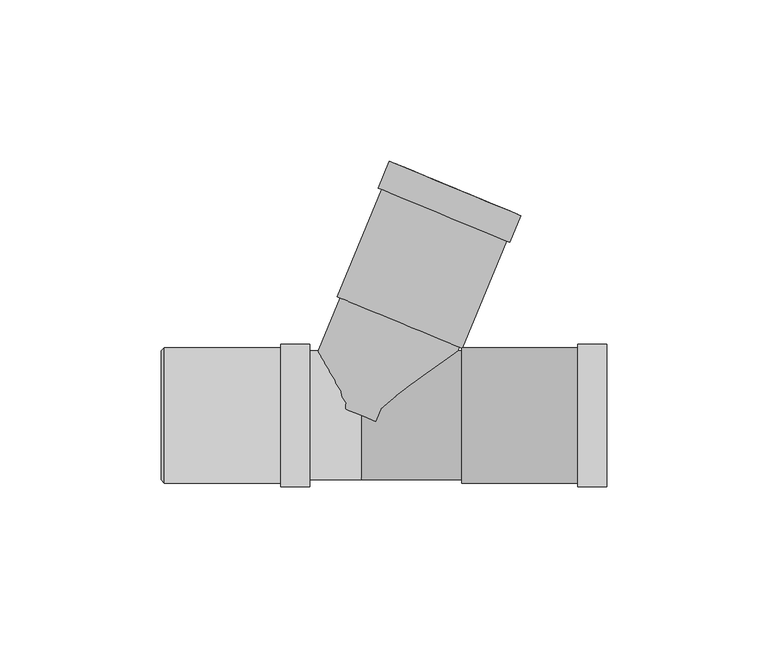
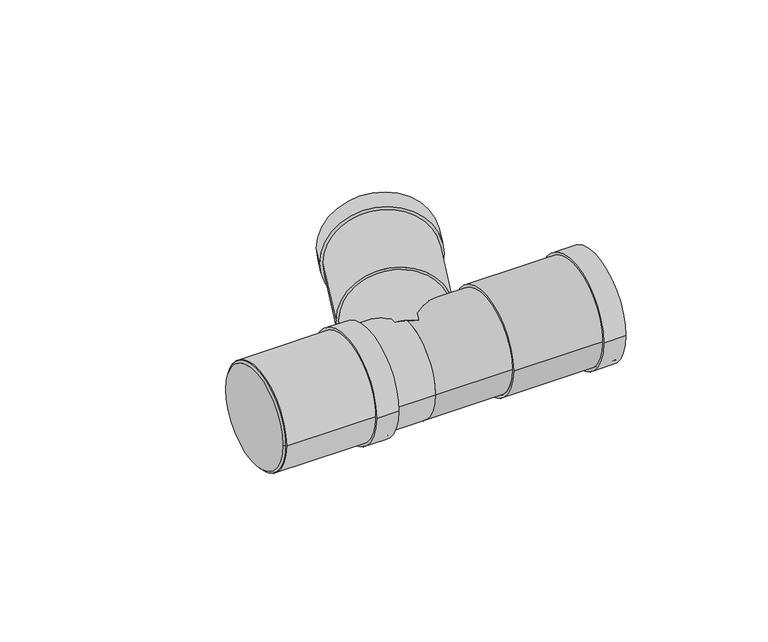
"""IFC4 building model written with IfcOpenShell, lengths in millimetres: pipe fitting geometry, Superdrain HTEA Branch : Superdrain HTEA Branch."""

from ifc_helpers import new_model, si_unit, point, frame, origin, origin_2d, place, context, project, spatial, polyline, circle_curve, trimmed, segment, composite_curve, outline, extrude, source, transform, mapped, element, save
from ifc_brep_helpers import plane_surface, revolved_surface, advanced_brep


def pipe_fitting_17b3b98e(model_context):
    return source(origin(), model_context, "Body", "SolidModel", [
        extrude(outline(composite_curve([segment(trimmed(circle_curve(origin_2d(), 21.0), [point((21.0, 0.0))], [point((-21.0, 0.0))], False, "CARTESIAN"), True, "CONTINUOUS"), segment(trimmed(circle_curve(origin_2d(), 21.0), [point((-21.0, 0.0))], [point((21.0, 0.0))], False, "CARTESIAN"), True, "CONTINUOUS")], self_intersect=False), holes=[composite_curve([segment(trimmed(circle_curve(origin_2d(), 20.0), [point((20.0, 0.0))], [point((-20.0, 0.0))], True, "CARTESIAN"), True, "CONTINUOUS"), segment(trimmed(circle_curve(origin_2d(), 20.0), [point((-20.0, 0.0))], [point((20.0, 0.0))], True, "CARTESIAN"), True, "CONTINUOUS")], self_intersect=False)]), frame((-61.0, 0.0, 0.0), z_axis=(1.0, 0.0, 0.0), x_axis=(0.0, 1.0, 0.0)), (0.0, 0.0, 1.0), 45.0),
        extrude(outline(composite_curve([segment(trimmed(circle_curve(origin_2d(), 22.05), [point((22.05, 0.0))], [point((-22.05, 0.0))], False, "CARTESIAN"), True, "CONTINUOUS"), segment(trimmed(circle_curve(origin_2d(), 22.05), [point((-22.05, 0.0))], [point((22.05, 0.0))], False, "CARTESIAN"), True, "CONTINUOUS")], self_intersect=False), holes=[composite_curve([segment(trimmed(circle_curve(origin_2d(), 20.0), [point((20.0, 0.0))], [point((-20.0, 0.0))], True, "CARTESIAN"), True, "CONTINUOUS"), segment(trimmed(circle_curve(origin_2d(), 20.0), [point((-20.0, 0.0))], [point((20.0, 0.0))], True, "CARTESIAN"), True, "CONTINUOUS")], self_intersect=False)]), frame((-25.0, 0.0, 0.0), z_axis=(1.0, 0.0, 0.0), x_axis=(0.0, 1.0, 0.0)), (0.0, 0.0, 1.0), 9.0),
        advanced_brep(
        [(-62.0, 20.0, 0.0), (-62.0, -20.0, 0.0), (-61.0, 21.0, 0.0), (-61.0, -21.0, 0.0)],
        [
            (0, 1, circle_curve(frame((-62.0, 0.0, 0.0), z_axis=(-1.0, 0.0, 0.0), x_axis=(0.0, 1.0000000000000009, 0.0)), 20.0)),
            (1, 0, circle_curve(frame((-62.0, 0.0, 0.0), z_axis=(-1.0, 0.0, 0.0), x_axis=(0.0, -1.0000000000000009, 0.0)), 20.0)),
            (2, 3, circle_curve(frame((-61.0, 0.0, 0.0), z_axis=(1.0, 0.0, 0.0), x_axis=(0.0, -1.0000000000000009, 0.0)), 21.0)),
            (3, 2, circle_curve(frame((-61.0, 0.0, 0.0), z_axis=(1.0, 0.0, 0.0), x_axis=(0.0, 1.0000000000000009, 0.0)), 21.0)),
            (3, 1),
            (0, 2),
        ],
        [
            plane_surface(frame((-62.0, 0.0, 0.0), z_axis=(-1.0, 0.0, 0.0), x_axis=(0.0, 0.0, -1.0))),
            plane_surface(frame((-61.0, 0.0, 0.0), z_axis=(1.0, 0.0, 0.0), x_axis=(0.0, 0.0, -1.0))),
            revolved_surface(polyline([(-62.0, 19.999999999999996, 0.0), (-61.0, 21.0, 0.0)]), (-82.0, 0.0, 0.0), (1.0000000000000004, 0.0, 0.0)),
            revolved_surface(polyline([(-62.0, -19.999999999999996, 0.0), (-61.0, -21.0, 0.0)]), (-82.0, 0.0, 0.0), (1.0000000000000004, 0.0, 0.0)),
        ],
        [
            (0, [[1, 2]]),
            (1, [[3, 4]]),
            (2, [[-4, 5, -1, 6]]),
            (3, [[-3, -6, -2, -5]]),
        ],
    ),
        extrude(outline(composite_curve([segment(trimmed(circle_curve(origin_2d(), 21.0), [point((-21.0, 0.0))], [point((21.0, 0.0))], False, "CARTESIAN"), True, "CONTINUOUS"), segment(trimmed(circle_curve(origin_2d(), 21.0), [point((21.0, 0.0))], [point((-21.0, 0.0))], False, "CARTESIAN"), True, "CONTINUOUS")], self_intersect=False), holes=[composite_curve([segment(trimmed(circle_curve(origin_2d(), 20.0), [point((20.0, 0.0))], [point((-20.0, 0.0))], True, "CARTESIAN"), True, "CONTINUOUS"), segment(trimmed(circle_curve(origin_2d(), 20.0), [point((-20.0, 0.0))], [point((20.0, 0.0))], True, "CARTESIAN"), True, "CONTINUOUS")], self_intersect=False)]), frame((31.2, 0.0, 0.0), z_axis=(1.0, 0.0, 0.0), x_axis=(0.0, 1.0, 0.0)), (0.0, 0.0, 1.0), 45.0),
        extrude(outline(composite_curve([segment(trimmed(circle_curve(origin_2d(), 22.05), [point((22.05, 0.0))], [point((-22.05, 0.0))], False, "CARTESIAN"), True, "CONTINUOUS"), segment(trimmed(circle_curve(origin_2d(), 22.05), [point((-22.05, 0.0))], [point((22.05, 0.0))], False, "CARTESIAN"), True, "CONTINUOUS")], self_intersect=False), holes=[composite_curve([segment(trimmed(circle_curve(origin_2d(), 20.0), [point((20.0, 0.0))], [point((-20.0, 0.0))], True, "CARTESIAN"), True, "CONTINUOUS"), segment(trimmed(circle_curve(origin_2d(), 20.0), [point((-20.0, 0.0))], [point((20.0, 0.0))], True, "CARTESIAN"), True, "CONTINUOUS")], self_intersect=False)]), frame((67.2, 0.0, 0.0), z_axis=(1.0, 0.0, 0.0), x_axis=(0.0, 1.0, 0.0)), (0.0, 0.0, 1.0), 9.0),
        extrude(outline(composite_curve([segment(trimmed(circle_curve(origin_2d(), 20.0), [point((0.0, 20.0))], [point((0.0, -20.0))], False, "CARTESIAN"), True, "CONTINUOUS"), segment(trimmed(circle_curve(origin_2d(), 20.0), [point((0.0, -20.0))], [point((0.0, 20.0))], False, "CARTESIAN"), True, "CONTINUOUS")], self_intersect=False)), frame((0.0, 0.0, 0.0), z_axis=(0.3826834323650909, 0.9238795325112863, 0.0), x_axis=(0.0, 0.0, 1.0)), (0.0, 0.0, 1.0), 31.2),
        extrude(outline(composite_curve([segment(trimmed(circle_curve(origin_2d(), 20.0), [point((20.0, 0.0))], [point((-20.0, 0.0))], False, "CARTESIAN"), True, "CONTINUOUS"), segment(trimmed(circle_curve(origin_2d(), 20.0), [point((-20.0, 0.0))], [point((20.0, 0.0))], False, "CARTESIAN"), True, "CONTINUOUS")], self_intersect=False)), frame((-61.0, 0.0, 0.0), z_axis=(1.0, 0.0, 0.0), x_axis=(0.0, 1.0, 0.0)), (0.0, 0.0, 1.0), 61.0),
        extrude(outline(composite_curve([segment(trimmed(circle_curve(origin_2d(), 20.0), [point((-20.0, 0.0))], [point((20.0, 0.0))], False, "CARTESIAN"), True, "CONTINUOUS"), segment(trimmed(circle_curve(origin_2d(), 20.0), [point((20.0, 0.0))], [point((-20.0, 0.0))], False, "CARTESIAN"), True, "CONTINUOUS")], self_intersect=False)), frame((0.0, 0.0, 0.0), z_axis=(1.0, 0.0, 0.0), x_axis=(0.0, 1.0, 0.0)), (0.0, 0.0, 1.0), 31.2),
        extrude(outline(composite_curve([segment(trimmed(circle_curve(origin_2d(), 22.05), [point((0.0, 22.0499999))], [point((0.0, -22.05))], False, "CARTESIAN"), True, "CONTINUOUS"), segment(trimmed(circle_curve(origin_2d(), 22.05), [point((0.0, -22.05))], [point((0.0, 22.0499999))], False, "CARTESIAN"), True, "CONTINUOUS")], self_intersect=False), holes=[composite_curve([segment(trimmed(circle_curve(origin_2d(), 20.0), [point((0.0, 20.0))], [point((0.0, -20.0))], True, "CARTESIAN"), True, "CONTINUOUS"), segment(trimmed(circle_curve(origin_2d(), 20.0), [point((0.0, -20.0))], [point((0.0, 20.0))], True, "CARTESIAN"), True, "CONTINUOUS")], self_intersect=False)]), frame((25.7163267, 62.0847046, 0.0), z_axis=(0.38268343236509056, 0.9238795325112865, 0.0), x_axis=(0.0, 0.0, 1.0)), (0.0, 0.0, 1.0), 9.0),
        extrude(outline(composite_curve([segment(trimmed(circle_curve(origin_2d(), 21.0), [point((0.0, 21.0))], [point((0.0, -21.0))], False, "CARTESIAN"), True, "CONTINUOUS"), segment(trimmed(circle_curve(origin_2d(), 21.0), [point((0.0, -21.0))], [point((0.0, 21.0))], False, "CARTESIAN"), True, "CONTINUOUS")], self_intersect=False), holes=[composite_curve([segment(trimmed(circle_curve(origin_2d(), 20.0), [point((0.0, 19.9999999))], [point((0.0, -20.0000001))], True, "CARTESIAN"), True, "CONTINUOUS"), segment(trimmed(circle_curve(origin_2d(), 20.0), [point((0.0, -20.0000001))], [point((0.0, 19.9999999))], True, "CARTESIAN"), True, "CONTINUOUS")], self_intersect=False)]), frame((11.9397231, 28.8250414, 0.0), z_axis=(0.38268343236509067, 0.9238795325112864, 0.0), x_axis=(0.0, 0.0, 1.0)), (0.0, 0.0, 1.0), 45.0),
    ])


if __name__ == "__main__":
    model = new_model("IFC4")
    model_context = context("Model", 3, world=origin())
    ifc_project = project(units=[si_unit("LENGTHUNIT", "METRE", prefix="MILLI")], contexts=[model_context])
    site = spatial("IfcSite", under=ifc_project)
    building = spatial("IfcBuilding", under=site)
    placement = place(None, origin())
    pipe_fitting_shape = pipe_fitting_17b3b98e(model_context)
    element("IfcPipeFitting", 1, ObjectType="Superdrain HTEA Branch : Superdrain HTEA Branch", at=placement, inside=building, context=model_context, shape_type="MappedRepresentation", body=[
        mapped(pipe_fitting_shape, transform((0.0, 0.0, 0.0), x_axis=(1.0, 0.0, 0.0), y_axis=(0.0, 1.0, 0.0), z_axis=(0.0, 0.0, 1.0))),
    ])
    save(model, "model.ifc")
